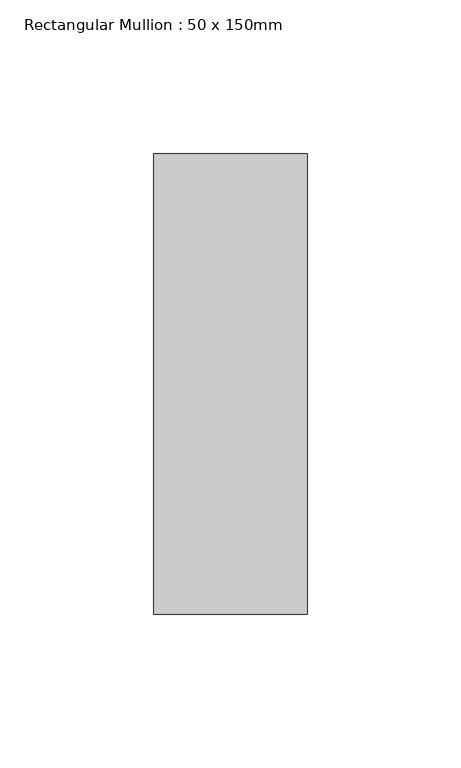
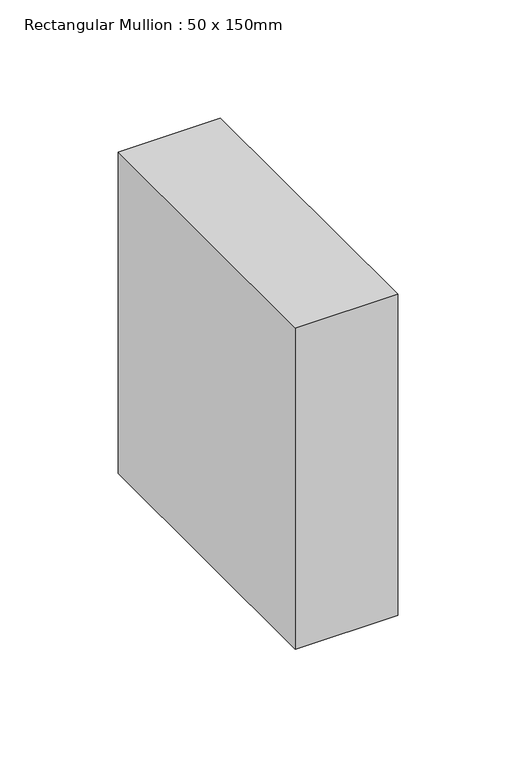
"""IFC4 building model written with IfcOpenShell, lengths in millimetres: member geometry, Rectangular Mullion : 50 x 150mm."""

from ifc_helpers import new_model, si_unit, frame, origin, place, context, project, spatial, polyline, outline, extrude, source, transform, mapped, element, save


def rectangular_mullion_50_x_150mm_f98cb22d(model_context):
    return source(origin(), model_context, "Body", "SweptSolid", [
        extrude(outline(polyline([(0.0, 75.0), (0.0, -75.0), (-50.0, -75.0), (-50.0, 75.0), (0.0, 75.0)])), frame((0.0, 0.0, -166.2241464), z_axis=(0.0, 0.0, 1.0), x_axis=(1.0, 0.0, 0.0)), (0.0, 0.0, 1.0), 166.2241464),
    ])


if __name__ == "__main__":
    model = new_model("IFC4")
    model_context = context("Model", 3, world=origin())
    ifc_project = project(units=[si_unit("LENGTHUNIT", "METRE", prefix="MILLI")], contexts=[model_context])
    site = spatial("IfcSite", under=ifc_project)
    building = spatial("IfcBuilding", under=site)
    placement = place(None, origin())
    rectangular_mullion_50_x_150mm_shape = rectangular_mullion_50_x_150mm_f98cb22d(model_context)
    element("IfcMember", 1, ObjectType="Rectangular Mullion : 50 x 150mm", at=placement, inside=building, context=model_context, shape_type="MappedRepresentation", body=[
        mapped(rectangular_mullion_50_x_150mm_shape, transform((0.0, 0.0, 0.0), x_axis=(1.0, 0.0, 0.0), y_axis=(0.0, 1.0, 0.0), z_axis=(0.0, 0.0, 1.0))),
    ])
    save(model, "model.ifc")
